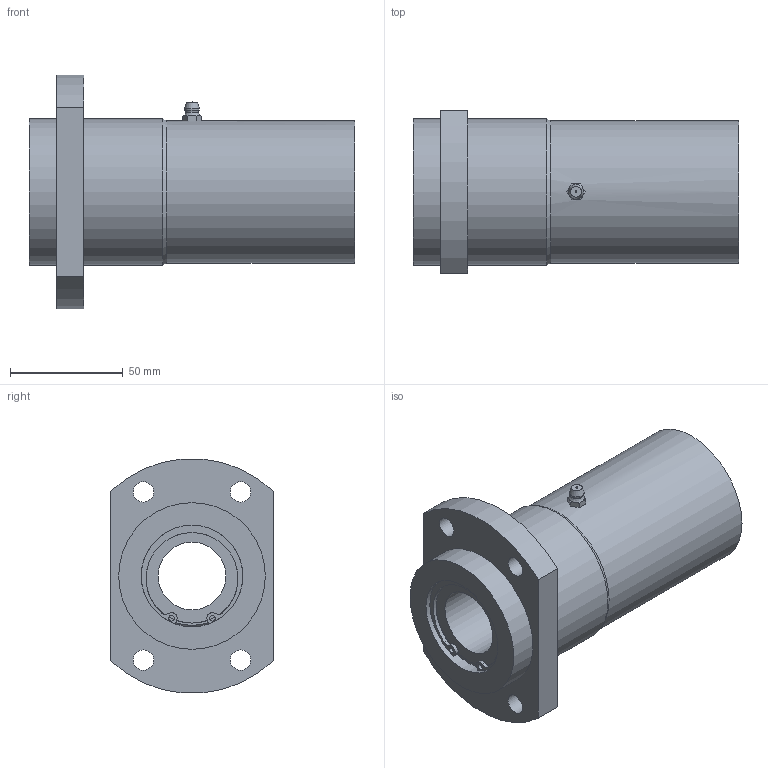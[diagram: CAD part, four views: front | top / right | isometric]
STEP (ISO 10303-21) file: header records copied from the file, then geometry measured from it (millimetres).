
FILE_DESCRIPTION((''),'2;1');
FILE_NAME('D:\製品 (図面)\カタログ用3D\リニアベアリング関連(改)\STEP形式\LFWB\LFWB30.stp','2010-01-22T16:28:09',('Tsuchiya'),(''),'Autodesk Inventor 10','Autodesk Inventor 10','');
FILE_SCHEMA(('AUTOMOTIVE_DESIGN { 1 0 10303 214 1 1 1 1 }'));
Length unit declared in the file: millimetre
Products named in the file (1): LFWB30
Bounding box: 144 x 72 x 103.62 mm (x, y, z)
Volume: 390590.6 mm3; surface area: 65442 mm2
Topology: 1 solids, 7 shells, 112 faces, 278 edges, 171 vertices
Faces by surface type: bspline 36, plane 34, cylinder 30, cone 8, sphere 2, torus 2
Full cylindrical faces by diameter (mm): 2.5 x2, 9 x4, 30 x2, 41.7 x2, 43 x2, 45 x8, 63 x1, 65 x2
Entity records: 3353 total; most frequent: CARTESIAN_POINT 927, DIRECTION 518, ORIENTED_EDGE 432, AXIS2_PLACEMENT_3D 237, EDGE_CURVE 216, EDGE_LOOP 188, CIRCLE 156, VERTEX_POINT 152
